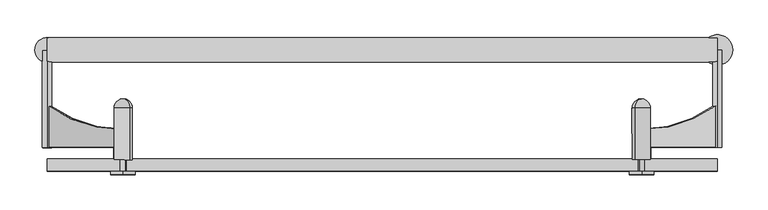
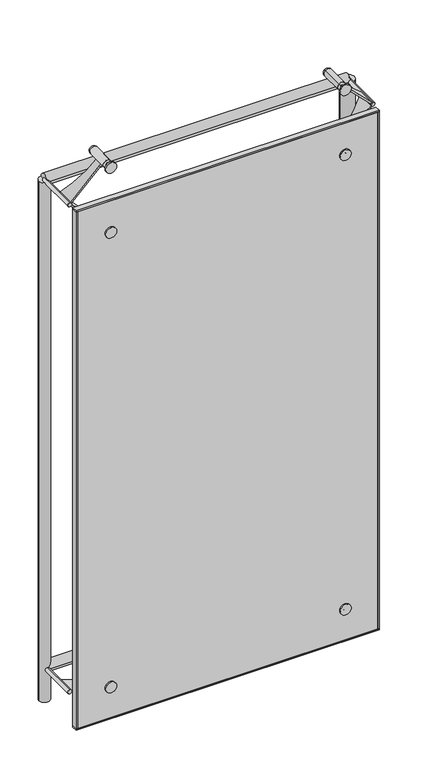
"""IFC4 building model written with IfcOpenShell, lengths in millimetres: plate geometry, FLATNING_TRYOUT : FLATNING_TRYOUT."""

from ifc_helpers import new_model, si_unit, point, frame, frame_2d, origin, origin_with_axes, place, context, project, spatial, polyline, circle_curve, ellipse_curve, trimmed, segment, composite_curve, outline, extrude, source, transform, mapped, element, save
from ifc_brep_helpers import plane_surface, cylinder_surface, revolved_surface, advanced_brep


def plate_2afd96b2(model_context):
    return source(origin(), model_context, "Body", "SolidModel", [
        extrude(outline(composite_curve([segment(polyline([(29.9999999, 0.0), (0.0, 0.0)]), True, "CONTINUOUS"), segment(trimmed(circle_curve(frame_2d((-375.1980994, 8.2292431)), 375.2883348), [point((0.0, 0.0))], [point((-40.0000001, 177.0))], True, "CARTESIAN"), True, "CONTINUOUS"), segment(polyline([(-40.0000001, 177.0), (30.0, 177.0), (29.9999999, 0.0)]), True, "CONTINUOUS")], self_intersect=False)), frame((425.2156771, 69.2674093, 2123.3901333), z_axis=(0.7070974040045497, 0.003641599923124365, 0.7071067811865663), x_axis=(0.005150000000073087, -0.9999867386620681, 0.0)), (0.0, 0.0, 1.0), 5.0),
        advanced_brep(
        [(427.3439206, -0.7225584, 2125.1579003), (423.8084336, -0.7407664, 2128.6934342), (430.8794076, -0.7043504, 2121.6223664), (416.6344596, 19.2225524, 2135.764502), (416.1967096, 104.2214252, 2135.764502), (437.4096317, 104.3306732, 2114.5512986), (437.8473817, 19.3318004, 2114.5512986), (423.7054336, 19.2589684, 2128.6934342), (430.7764076, 19.2953844, 2121.6223664), (426.7259206, 119.2758503, 2125.1579003)],
        [
            (0, 1),
            (1, 2, circle_curve(frame((427.3439206, -0.7225584, 2125.1579003), z_axis=(0.005150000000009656, -0.9999867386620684, 0.0), x_axis=(0.7070974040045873, 0.0036415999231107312, -0.7071067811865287)), 5.0)),
            (2, 0),
            (2, 1, circle_curve(frame((427.3439206, -0.7225584, 2125.1579003), z_axis=(0.005150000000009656, -0.9999867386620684, 0.0), x_axis=(0.7070974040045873, 0.0036415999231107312, -0.7071067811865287)), 5.0)),
            (3, 4),
            (4, 5, circle_curve(frame((426.8031706, 104.2760492, 2125.1579003), z_axis=(0.005150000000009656, -0.9999867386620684, 0.0), x_axis=(0.7070974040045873, 0.0036415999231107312, -0.7071067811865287)), 15.0)),
            (5, 6),
            (6, 3, circle_curve(frame((427.2409206, 19.2771764, 2125.1579003), z_axis=(-0.005150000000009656, 0.9999867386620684, 0.0), x_axis=(0.7070974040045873, 0.0036415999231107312, -0.7071067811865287)), 15.0)),
            (5, 4, circle_curve(frame((426.8031706, 104.2760492, 2125.1579003), z_axis=(0.005150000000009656, -0.9999867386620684, 0.0), x_axis=(0.7070974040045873, 0.0036415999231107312, -0.7071067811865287)), 15.0)),
            (3, 6, circle_curve(frame((427.2409206, 19.2771764, 2125.1579003), z_axis=(-0.005150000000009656, 0.9999867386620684, 0.0), x_axis=(0.7070974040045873, 0.0036415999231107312, -0.7071067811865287)), 15.0)),
            (7, 3),
            (6, 8),
            (8, 7, circle_curve(frame((427.2409206, 19.2771764, 2125.1579003), z_axis=(-0.005150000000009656, 0.9999867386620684, 0.0), x_axis=(0.7070974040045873, 0.0036415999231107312, -0.7071067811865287)), 5.0)),
            (7, 8, circle_curve(frame((427.2409206, 19.2771764, 2125.1579003), z_axis=(-0.005150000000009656, 0.9999867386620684, 0.0), x_axis=(0.7070974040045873, 0.0036415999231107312, -0.7071067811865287)), 5.0)),
            (1, 7),
            (8, 2),
            (4, 9, circle_curve(frame((426.8031706, 104.2760492, 2125.1579003), z_axis=(-0.7070974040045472, -0.0036415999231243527, -0.7071067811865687), x_axis=(-0.7070974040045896, -0.003641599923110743, 0.7071067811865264)), 15.0)),
            (9, 5, circle_curve(frame((426.8031706, 104.2760492, 2125.1579003), z_axis=(-0.7070974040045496, -0.0036415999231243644, -0.7071067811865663), x_axis=(0.7070974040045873, 0.0036415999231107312, -0.7071067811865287)), 15.0)),
        ],
        [
            plane_surface(frame((427.3439206, -0.7225584, 2125.1579003), z_axis=(0.005150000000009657, -0.9999867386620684, 0.0), x_axis=(0.7070974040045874, 0.0036415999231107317, -0.7071067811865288))),
            cylinder_surface(frame((430.0734206, -530.7155299, 2125.1579003), z_axis=(0.005150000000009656, -0.9999867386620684, 0.0), x_axis=(0.7070974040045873, 0.0036415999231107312, -0.7071067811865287)), 15.0),
            plane_surface(frame((427.2409206, 19.2771764, 2125.1579003), z_axis=(0.005150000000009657, -0.9999867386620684, 0.0), x_axis=(0.7070974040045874, 0.0036415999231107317, -0.7071067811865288))),
            cylinder_surface(frame((430.0734206, -530.7155299, 2125.1579003), z_axis=(0.005150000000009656, -0.9999867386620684, 0.0), x_axis=(0.7070974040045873, 0.0036415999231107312, -0.7071067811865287)), 5.0),
            revolved_surface(trimmed(ellipse_curve(frame((426.8031706, 104.2760492, 2125.1579003), z_axis=(-0.7070974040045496, -0.0036415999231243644, -0.7071067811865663), x_axis=(0.7070974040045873, 0.0036415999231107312, -0.7071067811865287)), 15.0, 15.0), [point((426.7259206, 119.2758503, 2125.1579003))], [point((437.4096317, 104.3306732, 2114.5512986))], True, "CARTESIAN"), (430.0734206, -530.7155299, 2125.1579003), (0.005150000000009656, -0.9999867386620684, 0.0)),
        ],
        [
            (0, [[1, 2, 3]]),
            (0, [[-3, 4, -1]]),
            (1, [[5, 6, 7, 8]]),
            (1, [[-7, 9, -5, 10]]),
            (2, [[11, -8, 12, 13]]),
            (2, [[-12, -10, -11, 14]]),
            (3, [[15, -13, 16, -2]]),
            (3, [[-16, -14, -15, -4]]),
            (4, [[17, 18, -6]]),
            (4, [[-18, -17, -9]]),
        ],
    ),
        extrude(outline(composite_curve([segment(polyline([(-30.0, 0.0), (-30.0, 177.0), (40.0, 177.0)]), True, "CONTINUOUS"), segment(trimmed(circle_curve(frame_2d((375.1980994, 8.2292431)), 375.2883348), [point((40.0, 177.0))], [point((0.0, 0.0))], True, "CARTESIAN"), True, "CONTINUOUS"), segment(polyline([(0.0, 0.0), (-30.0, 0.0)]), True, "CONTINUOUS")], self_intersect=False)), frame((-425.2127575, 68.8166307, 2123.3901333), z_axis=(-0.7070974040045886, 0.003641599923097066, 0.7071067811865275), x_axis=(0.005150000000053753, 0.9999867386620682, 0.0)), (0.0, 0.0, 1.0), 5.0),
        advanced_brep(
        [(-427.341001, -1.173337, 2125.1579003), (-423.805514, -1.191545, 2128.6934342), (-430.876488, -1.155129, 2121.6223664), (-416.63154, 18.7717738, 2135.764502), (-416.19379, 103.7706466, 2135.764502), (-437.4067121, 103.8798945, 2114.5512986), (-437.8444621, 18.8810218, 2114.5512986), (-423.702514, 18.8081898, 2128.6934342), (-430.773488, 18.8446058, 2121.6223664), (-426.723001, 118.8250716, 2125.1579003)],
        [
            (0, 1),
            (1, 2, circle_curve(frame((-427.341001, -1.173337, 2125.1579003), z_axis=(-0.005149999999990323, -0.9999867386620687, 0.0), x_axis=(-0.7070974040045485, 0.0036415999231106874, -0.7071067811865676)), 5.0)),
            (2, 0),
            (2, 1, circle_curve(frame((-427.341001, -1.173337, 2125.1579003), z_axis=(-0.005149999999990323, -0.9999867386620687, 0.0), x_axis=(-0.7070974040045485, 0.0036415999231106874, -0.7071067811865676)), 5.0)),
            (3, 4),
            (4, 5, circle_curve(frame((-426.800251, 103.8252705, 2125.1579003), z_axis=(-0.005149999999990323, -0.9999867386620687, 0.0), x_axis=(-0.7070974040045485, 0.0036415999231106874, -0.7071067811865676)), 15.0)),
            (5, 6),
            (6, 3, circle_curve(frame((-427.238001, 18.8263978, 2125.1579003), z_axis=(0.005149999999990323, 0.9999867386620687, 0.0), x_axis=(-0.7070974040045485, 0.0036415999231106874, -0.7071067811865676)), 15.0)),
            (5, 4, circle_curve(frame((-426.800251, 103.8252705, 2125.1579003), z_axis=(-0.005149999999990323, -0.9999867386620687, 0.0), x_axis=(-0.7070974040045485, 0.0036415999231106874, -0.7071067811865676)), 15.0)),
            (3, 6, circle_curve(frame((-427.238001, 18.8263978, 2125.1579003), z_axis=(0.005149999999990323, 0.9999867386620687, 0.0), x_axis=(-0.7070974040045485, 0.0036415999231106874, -0.7071067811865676)), 15.0)),
            (7, 3),
            (6, 8),
            (8, 7, circle_curve(frame((-427.238001, 18.8263978, 2125.1579003), z_axis=(0.005149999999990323, 0.9999867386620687, 0.0), x_axis=(-0.7070974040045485, 0.0036415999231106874, -0.7071067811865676)), 5.0)),
            (7, 8, circle_curve(frame((-427.238001, 18.8263978, 2125.1579003), z_axis=(0.005149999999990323, 0.9999867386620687, 0.0), x_axis=(-0.7070974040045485, 0.0036415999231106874, -0.7071067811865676)), 5.0)),
            (1, 7),
            (8, 2),
            (4, 9, circle_curve(frame((-426.800251, 103.8252705, 2125.1579003), z_axis=(-0.707097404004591, 0.0036415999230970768, 0.7071067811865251), x_axis=(0.7070974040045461, -0.0036415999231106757, 0.7071067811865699)), 15.0)),
            (9, 5, circle_curve(frame((-426.800251, 103.8252705, 2125.1579003), z_axis=(-0.7070974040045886, 0.003641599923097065, 0.7071067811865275), x_axis=(-0.7070974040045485, 0.0036415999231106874, -0.7071067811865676)), 15.0)),
        ],
        [
            plane_surface(frame((-427.341001, -1.173337, 2125.1579003), z_axis=(-0.005149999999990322, -0.9999867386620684, 0.0), x_axis=(-0.7070974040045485, 0.0036415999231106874, -0.7071067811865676))),
            cylinder_surface(frame((-430.070501, -531.1663085, 2125.1579003), z_axis=(-0.005149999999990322, -0.9999867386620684, 0.0), x_axis=(-0.7070974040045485, 0.0036415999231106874, -0.7071067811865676)), 15.0),
            plane_surface(frame((-427.238001, 18.8263978, 2125.1579003), z_axis=(-0.005149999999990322, -0.9999867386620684, 0.0), x_axis=(-0.7070974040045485, 0.0036415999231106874, -0.7071067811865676))),
            cylinder_surface(frame((-430.070501, -531.1663085, 2125.1579003), z_axis=(-0.005149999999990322, -0.9999867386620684, 0.0), x_axis=(-0.7070974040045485, 0.0036415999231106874, -0.7071067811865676)), 5.0),
            revolved_surface(trimmed(ellipse_curve(frame((-426.800251, 103.8252705, 2125.1579003), z_axis=(-0.7070974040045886, 0.003641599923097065, 0.7071067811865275), x_axis=(-0.7070974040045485, 0.0036415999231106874, -0.7071067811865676)), 15.0, 15.0), [point((-426.723001, 118.8250716, 2125.1579003))], [point((-437.4067121, 103.8798945, 2114.5512986))], True, "CARTESIAN"), (-430.070501, -531.1663085, 2125.1579003), (-0.005149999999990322, -0.9999867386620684, 0.0)),
        ],
        [
            (0, [[1, 2, 3]]),
            (0, [[-3, 4, -1]]),
            (1, [[5, 6, 7, 8]]),
            (1, [[-7, 9, -5, 10]]),
            (2, [[11, -8, 12, 13]]),
            (2, [[-12, -10, -11, 14]]),
            (3, [[15, -13, 16, -2]]),
            (3, [[-16, -14, -15, -4]]),
            (4, [[17, 18, -6]]),
            (4, [[-18, -17, -9]]),
        ],
    ),
        extrude(outline(composite_curve([segment(polyline([(30.0, 0.0), (0.0, 0.0)]), True, "CONTINUOUS"), segment(trimmed(circle_curve(frame_2d((-375.1980994, 8.2292431)), 375.2883348), [point((0.0, 0.0))], [point((-40.0, 176.9999999))], True, "CARTESIAN"), True, "CONTINUOUS"), segment(polyline([(-40.0, 176.9999999), (30.0, 176.9999999), (30.0, 0.0)]), True, "CONTINUOUS")], self_intersect=False)), frame((428.751003, 69.2856165, 1873.0743328), z_axis=(-0.7070974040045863, -0.0036415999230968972, 0.7071067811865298), x_axis=(0.005150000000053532, -0.9999867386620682, 0.0)), (0.0, 0.0, 1.0), 5.0),
        advanced_brep(
        [(427.3437595, -0.7225592, 1874.8420997), (423.8082725, -0.7407672, 1871.3065658), (430.8792465, -0.7043512, 1878.3776336), (416.6342984, 19.2225516, 1864.235498), (416.1965484, 104.2214243, 1864.235498), (437.4094706, 104.3306723, 1885.4487014), (437.8472206, 19.3317996, 1885.4487014), (423.7052725, 19.2589676, 1871.3065658), (430.7762465, 19.2953836, 1878.3776336), (426.7257595, 119.2758494, 1874.8420997)],
        [
            (0, 1),
            (1, 2, circle_curve(frame((427.3437595, -0.7225592, 1874.8420997), z_axis=(0.005149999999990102, -0.9999867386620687, 0.0), x_axis=(0.7070974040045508, 0.0036415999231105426, 0.7071067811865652)), 5.0)),
            (2, 0),
            (2, 1, circle_curve(frame((427.3437595, -0.7225592, 1874.8420997), z_axis=(0.005149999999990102, -0.9999867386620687, 0.0), x_axis=(0.7070974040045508, 0.0036415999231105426, 0.7071067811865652)), 5.0)),
            (3, 4),
            (4, 5, circle_curve(frame((426.8030095, 104.2760483, 1874.8420997), z_axis=(0.005149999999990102, -0.9999867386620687, 0.0), x_axis=(0.7070974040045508, 0.0036415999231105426, 0.7071067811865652)), 15.0)),
            (5, 6),
            (6, 3, circle_curve(frame((427.2407595, 19.2771756, 1874.8420997), z_axis=(-0.005149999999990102, 0.9999867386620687, 0.0), x_axis=(0.7070974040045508, 0.0036415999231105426, 0.7071067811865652)), 15.0)),
            (5, 4, circle_curve(frame((426.8030095, 104.2760483, 1874.8420997), z_axis=(0.005149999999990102, -0.9999867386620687, 0.0), x_axis=(0.7070974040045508, 0.0036415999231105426, 0.7071067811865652)), 15.0)),
            (3, 6, circle_curve(frame((427.2407595, 19.2771756, 1874.8420997), z_axis=(-0.005149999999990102, 0.9999867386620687, 0.0), x_axis=(0.7070974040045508, 0.0036415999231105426, 0.7071067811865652)), 15.0)),
            (7, 3),
            (6, 8),
            (8, 7, circle_curve(frame((427.2407595, 19.2771756, 1874.8420997), z_axis=(-0.005149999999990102, 0.9999867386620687, 0.0), x_axis=(0.7070974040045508, 0.0036415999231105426, 0.7071067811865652)), 5.0)),
            (7, 8, circle_curve(frame((427.2407595, 19.2771756, 1874.8420997), z_axis=(-0.005149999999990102, 0.9999867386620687, 0.0), x_axis=(0.7070974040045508, 0.0036415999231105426, 0.7071067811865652)), 5.0)),
            (1, 7),
            (8, 2),
            (4, 9, circle_curve(frame((426.8030095, 104.2760483, 1874.8420997), z_axis=(0.7070974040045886, 0.003641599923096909, -0.7071067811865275), x_axis=(-0.7070974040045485, -0.003641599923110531, -0.7071067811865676)), 15.0)),
            (9, 5, circle_curve(frame((426.8030095, 104.2760483, 1874.8420997), z_axis=(0.7070974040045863, 0.0036415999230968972, -0.7071067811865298), x_axis=(0.7070974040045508, 0.0036415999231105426, 0.7071067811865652)), 15.0)),
        ],
        [
            plane_surface(frame((427.3437595, -0.7225592, 1874.8420997), z_axis=(0.005149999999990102, -0.9999867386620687, 0.0), x_axis=(0.7070974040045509, 0.003641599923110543, 0.7071067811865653))),
            cylinder_surface(frame((430.0732595, -530.7155307, 1874.8420997), z_axis=(0.005149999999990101, -0.9999867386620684, 0.0), x_axis=(0.7070974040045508, 0.0036415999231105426, 0.7071067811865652)), 15.0),
            plane_surface(frame((427.2407595, 19.2771756, 1874.8420997), z_axis=(0.005149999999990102, -0.9999867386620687, 0.0), x_axis=(0.7070974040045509, 0.003641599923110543, 0.7071067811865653))),
            cylinder_surface(frame((430.0732595, -530.7155307, 1874.8420997), z_axis=(0.005149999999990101, -0.9999867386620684, 0.0), x_axis=(0.7070974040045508, 0.0036415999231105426, 0.7071067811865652)), 5.0),
            revolved_surface(trimmed(ellipse_curve(frame((426.8030095, 104.2760483, 1874.8420997), z_axis=(0.7070974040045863, 0.0036415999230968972, -0.7071067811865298), x_axis=(0.7070974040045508, 0.0036415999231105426, 0.7071067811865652)), 15.0, 15.0), [point((426.7257595, 119.2758494, 1874.8420997))], [point((437.4094706, 104.3306723, 1885.4487014))], True, "CARTESIAN"), (430.0732595, -530.7155307, 1874.8420997), (0.005149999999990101, -0.9999867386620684, 0.0)),
        ],
        [
            (0, [[1, 2, 3]]),
            (0, [[-3, 4, -1]]),
            (1, [[5, 6, 7, 8]]),
            (1, [[-7, 9, -5, 10]]),
            (2, [[11, -8, 12, 13]]),
            (2, [[-12, -10, -11, 14]]),
            (3, [[15, -13, 16, -2]]),
            (3, [[-16, -14, -15, -4]]),
            (4, [[17, 18, -6]]),
            (4, [[-18, -17, -9]]),
        ],
    ),
        extrude(outline(composite_curve([segment(polyline([(30.0, 0.0), (30.0, -176.9999999), (-40.0, -176.9999999)]), True, "CONTINUOUS"), segment(trimmed(circle_curve(frame_2d((-375.1980994, -8.2292431)), 375.2883348), [point((-40.0, -176.9999999))], [point((0.0, 0.0))], True, "CARTESIAN"), True, "CONTINUOUS"), segment(polyline([(0.0, 0.0), (30.0, 0.0)]), True, "CONTINUOUS")], self_intersect=False)), frame((-428.751003, 69.2856165, 1873.0743328), z_axis=(0.7070974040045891, -0.003641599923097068, 0.707106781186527), x_axis=(-0.005150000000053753, -0.9999867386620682, 0.0)), (0.0, 0.0, 1.0), 5.0),
        advanced_brep(
        [(-427.3437595, -0.7225592, 1874.8420997), (-430.8792465, -0.7043512, 1878.3776336), (-423.8082725, -0.7407672, 1871.3065658), (-416.6342984, 19.2225516, 1864.235498), (-437.8472206, 19.3317996, 1885.4487014), (-437.4094706, 104.3306723, 1885.4487014), (-416.1965484, 104.2214243, 1864.235498), (-423.7052725, 19.2589676, 1871.3065658), (-430.7762465, 19.2953836, 1878.3776336), (-426.7257595, 119.2758494, 1874.8420997)],
        [
            (0, 1),
            (1, 2, circle_curve(frame((-427.3437595, -0.7225592, 1874.8420997), z_axis=(-0.005149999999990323, -0.9999867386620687, 0.0), x_axis=(-0.707097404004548, 0.003641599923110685, 0.707106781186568)), 5.0)),
            (2, 0),
            (2, 1, circle_curve(frame((-427.3437595, -0.7225592, 1874.8420997), z_axis=(-0.005149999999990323, -0.9999867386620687, 0.0), x_axis=(-0.707097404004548, 0.003641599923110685, 0.707106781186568)), 5.0)),
            (3, 4, circle_curve(frame((-427.2407595, 19.2771756, 1874.8420997), z_axis=(0.005149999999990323, 0.9999867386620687, 0.0), x_axis=(-0.707097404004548, 0.003641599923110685, 0.707106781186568)), 15.0)),
            (4, 5),
            (5, 6, circle_curve(frame((-426.8030095, 104.2760483, 1874.8420997), z_axis=(-0.005149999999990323, -0.9999867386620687, 0.0), x_axis=(-0.707097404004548, 0.003641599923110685, 0.707106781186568)), 15.0)),
            (6, 3),
            (4, 3, circle_curve(frame((-427.2407595, 19.2771756, 1874.8420997), z_axis=(0.005149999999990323, 0.9999867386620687, 0.0), x_axis=(-0.707097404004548, 0.003641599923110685, 0.707106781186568)), 15.0)),
            (6, 5, circle_curve(frame((-426.8030095, 104.2760483, 1874.8420997), z_axis=(-0.005149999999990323, -0.9999867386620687, 0.0), x_axis=(-0.707097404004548, 0.003641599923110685, 0.707106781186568)), 15.0)),
            (7, 8, circle_curve(frame((-427.2407595, 19.2771756, 1874.8420997), z_axis=(0.005149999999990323, 0.9999867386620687, 0.0), x_axis=(-0.707097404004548, 0.003641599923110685, 0.707106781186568)), 5.0)),
            (8, 4),
            (3, 7),
            (8, 7, circle_curve(frame((-427.2407595, 19.2771756, 1874.8420997), z_axis=(0.005149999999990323, 0.9999867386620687, 0.0), x_axis=(-0.707097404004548, 0.003641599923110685, 0.707106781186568)), 5.0)),
            (1, 8),
            (7, 2),
            (5, 9, circle_curve(frame((-426.8030095, 104.2760483, 1874.8420997), z_axis=(-0.7070974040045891, 0.0036415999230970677, -0.707106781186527), x_axis=(-0.707097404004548, 0.003641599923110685, 0.707106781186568)), 15.0)),
            (9, 6, circle_curve(frame((-426.8030095, 104.2760483, 1874.8420997), z_axis=(-0.7070974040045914, 0.0036415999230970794, -0.7071067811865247), x_axis=(0.7070974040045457, -0.003641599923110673, -0.7071067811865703)), 15.0)),
        ],
        [
            plane_surface(frame((-427.3437595, -0.7225592, 1874.8420997), z_axis=(-0.005149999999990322, -0.9999867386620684, 0.0), x_axis=(-0.707097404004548, 0.003641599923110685, 0.707106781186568))),
            cylinder_surface(frame((-430.0732595, -530.7155307, 1874.8420997), z_axis=(-0.005149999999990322, -0.9999867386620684, 0.0), x_axis=(-0.707097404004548, 0.003641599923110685, 0.707106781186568)), 15.0),
            plane_surface(frame((-427.2407595, 19.2771756, 1874.8420997), z_axis=(-0.005149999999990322, -0.9999867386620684, 0.0), x_axis=(-0.707097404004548, 0.003641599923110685, 0.707106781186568))),
            cylinder_surface(frame((-430.0732595, -530.7155307, 1874.8420997), z_axis=(-0.005149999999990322, -0.9999867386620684, 0.0), x_axis=(-0.707097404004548, 0.003641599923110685, 0.707106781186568)), 5.0),
            revolved_surface(trimmed(ellipse_curve(frame((-426.8030095, 104.2760483, 1874.8420997), z_axis=(0.7070974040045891, -0.0036415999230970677, 0.707106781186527), x_axis=(-0.707097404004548, 0.003641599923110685, 0.707106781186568)), 15.0, 15.0), [point((-426.7257595, 119.2758494, 1874.8420997))], [point((-437.4094706, 104.3306723, 1885.4487014))], True, "CARTESIAN"), (-430.0732595, -530.7155307, 1874.8420997), (-0.005149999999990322, -0.9999867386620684, 0.0)),
        ],
        [
            (0, [[1, 2, 3]]),
            (0, [[-3, 4, -1]]),
            (1, [[5, 6, 7, 8]]),
            (1, [[9, -8, 10, -6]]),
            (2, [[11, 12, -5, 13]]),
            (2, [[14, -13, -9, -12]]),
            (3, [[-2, 15, -11, 16]]),
            (3, [[-4, -16, -14, -15]]),
            (4, [[-7, 17, 18]]),
            (4, [[-10, -18, -17]]),
        ],
    ),
        extrude(outline(composite_curve([segment(polyline([(427.2956577, 38.8269599), (427.1411577, 68.8265621)]), True, "CONTINUOUS"), segment(trimmed(circle_curve(frame_2d((421.7588536, 297.257539)), 228.4943772), [point((427.1411577, 68.8265621))], [point((551.9335001, 109.4697816))], True, "CARTESIAN"), True, "CONTINUOUS"), segment(polyline([(551.9335001, 109.4697816), (552.2940001, 39.4707099), (427.2956577, 38.8269599)]), True, "CONTINUOUS")], self_intersect=False)), frame((0.0, 0.0, 122.5), z_axis=(0.0, 0.0, 1.0), x_axis=(1.0, 0.0, 0.0)), (0.0, 0.0, 1.0), 5.0),
        advanced_brep(
        [(427.5016577, -1.1725096, 125.0), (422.501724, -1.1982596, 125.0), (432.5015914, -1.1467596, 125.0), (412.3988566, 18.7499752, 125.0), (411.9611066, 103.7488479, 125.0), (441.9607088, 103.9033479, 125.0), (442.3984588, 18.9044752, 125.0), (422.398724, 18.8014752, 125.0), (432.3985914, 18.8529752, 125.0), (426.8836577, 118.825899, 125.0)],
        [
            (0, 1),
            (1, 2, circle_curve(frame((427.5016577, -1.1725096, 125.0), z_axis=(0.005149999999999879, -0.9999867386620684, 0.0), x_axis=(0.9999867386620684, 0.005149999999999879, 0.0)), 5.0)),
            (2, 0),
            (2, 1, circle_curve(frame((427.5016577, -1.1725096, 125.0), z_axis=(0.005149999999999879, -0.9999867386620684, 0.0), x_axis=(0.9999867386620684, 0.005149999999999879, 0.0)), 5.0)),
            (3, 4),
            (4, 5, circle_curve(frame((426.9609077, 103.8260979, 125.0), z_axis=(0.005149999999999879, -0.9999867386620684, 0.0), x_axis=(0.9999867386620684, 0.005149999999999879, 0.0)), 15.0)),
            (5, 6),
            (6, 3, circle_curve(frame((427.3986577, 18.8272252, 125.0), z_axis=(-0.005149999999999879, 0.9999867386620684, 0.0), x_axis=(0.9999867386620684, 0.005149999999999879, 0.0)), 15.0)),
            (5, 4, circle_curve(frame((426.9609077, 103.8260979, 125.0), z_axis=(0.005149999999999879, -0.9999867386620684, 0.0), x_axis=(0.9999867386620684, 0.005149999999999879, 0.0)), 15.0)),
            (3, 6, circle_curve(frame((427.3986577, 18.8272252, 125.0), z_axis=(-0.005149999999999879, 0.9999867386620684, 0.0), x_axis=(0.9999867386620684, 0.005149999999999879, 0.0)), 15.0)),
            (7, 3),
            (6, 8),
            (8, 7, circle_curve(frame((427.3986577, 18.8272252, 125.0), z_axis=(-0.005149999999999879, 0.9999867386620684, 0.0), x_axis=(0.9999867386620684, 0.005149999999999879, 0.0)), 5.0)),
            (7, 8, circle_curve(frame((427.3986577, 18.8272252, 125.0), z_axis=(-0.005149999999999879, 0.9999867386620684, 0.0), x_axis=(0.9999867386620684, 0.005149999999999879, 0.0)), 5.0)),
            (1, 7),
            (8, 2),
            (4, 9, circle_curve(frame((426.9609077, 103.8260979, 125.0), z_axis=(0.0, 0.0, -1.0), x_axis=(-0.9999867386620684, -0.005149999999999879, 0.0)), 15.0)),
            (9, 5, circle_curve(frame((426.9609077, 103.8260979, 125.0), z_axis=(0.0, 0.0, -1.0), x_axis=(0.9999867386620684, 0.005149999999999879, 0.0)), 15.0)),
        ],
        [
            plane_surface(frame((427.5016577, -1.1725096, 125.0), z_axis=(0.005149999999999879, -0.9999867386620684, 0.0), x_axis=(0.9999867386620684, 0.005149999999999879, 0.0))),
            cylinder_surface(frame((428.8149077, -256.169128, 125.0), z_axis=(0.005149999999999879, -0.9999867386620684, 0.0), x_axis=(0.9999867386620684, 0.005149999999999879, 0.0)), 15.0),
            plane_surface(frame((427.3986577, 18.8272252, 125.0), z_axis=(0.005149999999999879, -0.9999867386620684, 0.0), x_axis=(0.9999867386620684, 0.005149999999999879, 0.0))),
            cylinder_surface(frame((428.8149077, -256.169128, 125.0), z_axis=(0.005149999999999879, -0.9999867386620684, 0.0), x_axis=(0.9999867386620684, 0.005149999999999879, 0.0)), 5.0),
            revolved_surface(trimmed(ellipse_curve(frame((426.9609077, 103.8260979, 125.0), z_axis=(0.0, 0.0, -1.0), x_axis=(0.9999867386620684, 0.005149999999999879, 0.0)), 15.0, 15.0), [point((426.8836577, 118.825899, 125.0))], [point((441.9607088, 103.9033479, 125.0))], True, "CARTESIAN"), (428.8149077, -256.169128, 125.0), (0.005149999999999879, -0.9999867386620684, 0.0)),
        ],
        [
            (0, [[1, 2, 3]]),
            (0, [[-3, 4, -1]]),
            (1, [[5, 6, 7, 8]]),
            (1, [[-7, 9, -5, 10]]),
            (2, [[11, -8, 12, 13]]),
            (2, [[-12, -10, -11, 14]]),
            (3, [[15, -13, 16, -2]]),
            (3, [[-16, -14, -15, -4]]),
            (4, [[17, 18, -6]]),
            (4, [[-18, -17, -9]]),
        ],
    ),
        extrude(outline(composite_curve([segment(polyline([(-427.2956577, 38.8269599), (-552.2940001, 39.4707099), (-551.9335001, 109.4697816)]), True, "CONTINUOUS"), segment(trimmed(circle_curve(frame_2d((-421.7588536, 297.257539)), 228.4943772), [point((-551.9335001, 109.4697816))], [point((-427.1411577, 68.8265621))], True, "CARTESIAN"), True, "CONTINUOUS"), segment(polyline([(-427.1411577, 68.8265621), (-427.2956577, 38.8269599)]), True, "CONTINUOUS")], self_intersect=False)), frame((0.0, 0.0, 122.5), z_axis=(0.0, 0.0, 1.0), x_axis=(1.0, 0.0, 0.0)), (0.0, 0.0, 1.0), 5.0),
        advanced_brep(
        [(-427.5016577, -1.1725096, 125.0), (-422.501724, -1.1982596, 125.0), (-432.5015914, -1.1467596, 125.0), (-412.3988566, 18.7499752, 125.0), (-411.9611066, 103.7488479, 125.0), (-441.9607088, 103.9033479, 125.0), (-442.3984588, 18.9044752, 125.0), (-422.398724, 18.8014752, 125.0), (-432.3985914, 18.8529752, 125.0), (-426.8836577, 118.825899, 125.0)],
        [
            (0, 1),
            (1, 2, circle_curve(frame((-427.5016577, -1.1725096, 125.0), z_axis=(-0.0051500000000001, -0.9999867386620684, 0.0), x_axis=(-0.9999867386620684, 0.0051500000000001, 0.0)), 5.0)),
            (2, 0),
            (2, 1, circle_curve(frame((-427.5016577, -1.1725096, 125.0), z_axis=(-0.0051500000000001, -0.9999867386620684, 0.0), x_axis=(-0.9999867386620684, 0.0051500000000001, 0.0)), 5.0)),
            (3, 4),
            (4, 5, circle_curve(frame((-426.9609077, 103.8260979, 125.0), z_axis=(-0.0051500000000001, -0.9999867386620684, 0.0), x_axis=(-0.9999867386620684, 0.0051500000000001, 0.0)), 15.0)),
            (5, 6),
            (6, 3, circle_curve(frame((-427.3986577, 18.8272252, 125.0), z_axis=(0.0051500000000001, 0.9999867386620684, 0.0), x_axis=(-0.9999867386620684, 0.0051500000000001, 0.0)), 15.0)),
            (5, 4, circle_curve(frame((-426.9609077, 103.8260979, 125.0), z_axis=(-0.0051500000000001, -0.9999867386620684, 0.0), x_axis=(-0.9999867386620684, 0.0051500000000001, 0.0)), 15.0)),
            (3, 6, circle_curve(frame((-427.3986577, 18.8272252, 125.0), z_axis=(0.0051500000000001, 0.9999867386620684, 0.0), x_axis=(-0.9999867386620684, 0.0051500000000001, 0.0)), 15.0)),
            (7, 3),
            (6, 8),
            (8, 7, circle_curve(frame((-427.3986577, 18.8272252, 125.0), z_axis=(0.0051500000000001, 0.9999867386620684, 0.0), x_axis=(-0.9999867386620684, 0.0051500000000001, 0.0)), 5.0)),
            (7, 8, circle_curve(frame((-427.3986577, 18.8272252, 125.0), z_axis=(0.0051500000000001, 0.9999867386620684, 0.0), x_axis=(-0.9999867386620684, 0.0051500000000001, 0.0)), 5.0)),
            (1, 7),
            (8, 2),
            (4, 9, circle_curve(frame((-426.9609077, 103.8260979, 125.0), z_axis=(0.0, 0.0, 1.0), x_axis=(0.9999867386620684, -0.0051500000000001, 0.0)), 15.0)),
            (9, 5, circle_curve(frame((-426.9609077, 103.8260979, 125.0), z_axis=(0.0, 0.0, 1.0), x_axis=(-0.9999867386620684, 0.0051500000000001, 0.0)), 15.0)),
        ],
        [
            plane_surface(frame((-427.5016577, -1.1725096, 125.0), z_axis=(-0.0051500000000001, -0.9999867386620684, 0.0), x_axis=(-0.9999867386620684, 0.0051500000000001, 0.0))),
            cylinder_surface(frame((-428.8149077, -256.169128, 125.0), z_axis=(-0.0051500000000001, -0.9999867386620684, 0.0), x_axis=(-0.9999867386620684, 0.0051500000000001, 0.0)), 15.0),
            plane_surface(frame((-427.3986577, 18.8272252, 125.0), z_axis=(-0.0051500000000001, -0.9999867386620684, 0.0), x_axis=(-0.9999867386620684, 0.0051500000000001, 0.0))),
            cylinder_surface(frame((-428.8149077, -256.169128, 125.0), z_axis=(-0.0051500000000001, -0.9999867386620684, 0.0), x_axis=(-0.9999867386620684, 0.0051500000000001, 0.0)), 5.0),
            revolved_surface(trimmed(ellipse_curve(frame((-426.9609077, 103.8260979, 125.0), z_axis=(0.0, 0.0, 1.0), x_axis=(-0.9999867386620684, 0.0051500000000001, 0.0)), 15.0, 15.0), [point((-426.8836577, 118.825899, 125.0))], [point((-441.9607088, 103.9033479, 125.0))], True, "CARTESIAN"), (-428.8149077, -256.169128, 125.0), (-0.0051500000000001, -0.9999867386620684, 0.0)),
        ],
        [
            (0, [[1, 2, 3]]),
            (0, [[-3, 4, -1]]),
            (1, [[5, 6, 7, 8]]),
            (1, [[-7, 9, -5, 10]]),
            (2, [[11, -8, 12, 13]]),
            (2, [[-12, -10, -11, 14]]),
            (3, [[15, -13, 16, -2]]),
            (3, [[-16, -14, -15, -4]]),
            (4, [[17, 18, -6]]),
            (4, [[-18, -17, -9]]),
        ],
    ),
        extrude(outline(polyline([(552.5, 20.0), (552.5, 0.0), (-552.5, 0.0), (-552.5, 20.0), (552.5, 20.0)])), origin_with_axes(), (0.0, 0.0, 1.0), 5.0),
        extrude(outline(polyline([(552.5, 20.0), (552.5, 0.0), (-552.5, 0.0), (-552.5, 20.0), (552.5, 20.0)])), frame((0.0, 0.0, 1995.0), z_axis=(0.0, 0.0, 1.0), x_axis=(1.0, 0.0, 0.0)), (0.0, 0.0, 1.0), 5.0),
        extrude(outline(polyline([(547.5, -0.0781286), (547.5, 20.0), (552.5, 20.0), (552.5, -0.0781286), (547.5, -0.0781286)])), frame((0.0, 0.0, 5.0), z_axis=(0.0, 0.0, 1.0), x_axis=(1.0, 0.0, 0.0)), (0.0, 0.0, 1.0), 1990.0),
        extrude(outline(polyline([(-547.5, -0.5287596), (-552.5000001, -0.5287596), (-552.5000001, 20.0), (-547.5, 20.0), (-547.5, -0.5287596)])), frame((0.0, 0.0, 5.0), z_axis=(0.0, 0.0, 1.0), x_axis=(1.0, 0.0, 0.0)), (0.0, 0.0, 1.0), 1990.0),
        extrude(outline(polyline([(547.5, 20.0), (547.5, 0.0), (-547.5, 0.0), (-547.5, 20.0), (547.5, 20.0)])), frame((0.0, 0.0, 5.0), z_axis=(0.0, 0.0, 1.0), x_axis=(1.0, 0.0, 0.0)), (0.0, 0.0, 1.0), 1990.0),
        extrude(outline(composite_curve([segment(trimmed(circle_curve(frame_2d((200.0, 2000.0)), 20.0), [point((220.0, 2000.0))], [point((180.0, 2000.0))], False, "CARTESIAN"), True, "CONTINUOUS"), segment(trimmed(circle_curve(frame_2d((200.0, 2000.0)), 20.0), [point((180.0, 2000.0))], [point((220.0, 2000.0))], False, "CARTESIAN"), True, "CONTINUOUS")], self_intersect=False)), frame((-552.5, 0.0, 0.0), z_axis=(1.0, 0.0, 0.0), x_axis=(0.0, 1.0, 0.0)), (0.0, 0.0, 1.0), 1105.0),
        extrude(outline(composite_curve([segment(trimmed(circle_curve(frame_2d((200.0, 125.0)), 20.0), [point((220.0, 125.0))], [point((180.0, 125.0))], False, "CARTESIAN"), True, "CONTINUOUS"), segment(trimmed(circle_curve(frame_2d((200.0, 125.0)), 20.0), [point((180.0, 125.0))], [point((220.0, 125.0))], False, "CARTESIAN"), True, "CONTINUOUS")], self_intersect=False)), frame((-552.5, 0.0, 0.0), z_axis=(1.0, 0.0, 0.0), x_axis=(0.0, 1.0, 0.0)), (0.0, 0.0, 1.0), 1105.0),
        extrude(outline(composite_curve([segment(trimmed(circle_curve(frame_2d((2000.0, -552.5)), 7.5), [point((1992.5, -552.5))], [point((2007.5, -552.5))], False, "CARTESIAN"), True, "CONTINUOUS"), segment(trimmed(circle_curve(frame_2d((2000.0, -552.5)), 7.5), [point((2007.5, -552.5))], [point((1992.5, -552.5))], False, "CARTESIAN"), True, "CONTINUOUS")], self_intersect=False)), frame((0.0, 38.6528093, 0.0), z_axis=(0.0, 1.0, 0.0), x_axis=(0.0, 0.0, 1.0)), (0.0, 0.0, 1.0), 160.0),
        extrude(outline(composite_curve([segment(trimmed(circle_curve(frame_2d((2000.0, 552.5)), 7.5), [point((1992.5, 552.5))], [point((2007.5, 552.5))], False, "CARTESIAN"), True, "CONTINUOUS"), segment(trimmed(circle_curve(frame_2d((2000.0, 552.5)), 7.5), [point((2007.5, 552.5))], [point((1992.5, 552.5))], False, "CARTESIAN"), True, "CONTINUOUS")], self_intersect=False)), frame((0.0, 39.2242369, 0.0), z_axis=(0.0, 1.0, 0.0), x_axis=(0.0, 0.0, 1.0)), (0.0, 0.0, 1.0), 160.0),
        extrude(outline(composite_curve([segment(trimmed(circle_curve(frame_2d((0.0, 20.0)), 20.0), [point((0.0, 40.0))], [point((0.0, 0.0))], False, "CARTESIAN"), True, "CONTINUOUS"), segment(trimmed(circle_curve(frame_2d((0.0, 20.0)), 20.0), [point((0.0, 0.0))], [point((0.0, 40.0))], False, "CARTESIAN"), True, "CONTINUOUS")], self_intersect=False)), frame((-427.5, -5.7218209, 1895.0), z_axis=(0.005150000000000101, 0.9999867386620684, 0.0), x_axis=(0.9999867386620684, -0.005150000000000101, 0.0)), (0.0, 0.0, 1.0), 5.0),
        extrude(outline(composite_curve([segment(trimmed(circle_curve(frame_2d((0.0, -230.0)), 20.0), [point((0.0, -210.0))], [point((0.0, -250.0))], False, "CARTESIAN"), True, "CONTINUOUS"), segment(trimmed(circle_curve(frame_2d((0.0, -230.0)), 20.0), [point((0.0, -250.0))], [point((0.0, -210.0))], False, "CARTESIAN"), True, "CONTINUOUS")], self_intersect=False)), frame((-427.5, -5.7218209, 1895.0), z_axis=(0.005150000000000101, 0.9999867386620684, 0.0), x_axis=(0.9999867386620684, -0.005150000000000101, 0.0)), (0.0, 0.0, 1.0), 5.0),
        extrude(outline(composite_curve([segment(trimmed(circle_curve(frame_2d((0.0, 20.0)), 20.0), [point((0.0, 40.0))], [point((0.0, 0.0))], False, "CARTESIAN"), True, "CONTINUOUS"), segment(trimmed(circle_curve(frame_2d((0.0, 20.0)), 20.0), [point((0.0, 0.0))], [point((0.0, 40.0))], False, "CARTESIAN"), True, "CONTINUOUS")], self_intersect=False)), frame((427.5, -5.7218209, 1895.0), z_axis=(-0.005149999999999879, 0.9999867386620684, 0.0), x_axis=(0.9999867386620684, 0.005149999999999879, 0.0)), (0.0, 0.0, 1.0), 5.0),
        extrude(outline(composite_curve([segment(trimmed(circle_curve(frame_2d((0.0, -230.0)), 20.0), [point((0.0, -210.0))], [point((0.0, -250.0))], False, "CARTESIAN"), True, "CONTINUOUS"), segment(trimmed(circle_curve(frame_2d((0.0, -230.0)), 20.0), [point((0.0, -250.0))], [point((0.0, -210.0))], False, "CARTESIAN"), True, "CONTINUOUS")], self_intersect=False)), frame((427.5, -5.7218209, 1895.0), z_axis=(-0.005149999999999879, 0.9999867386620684, 0.0), x_axis=(0.9999867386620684, 0.005149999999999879, 0.0)), (0.0, 0.0, 1.0), 5.0),
        extrude(outline(composite_curve([segment(trimmed(circle_curve(frame_2d((125.0, 552.5)), 7.5), [point((117.5, 552.5))], [point((132.5, 552.5))], False, "CARTESIAN"), True, "CONTINUOUS"), segment(trimmed(circle_curve(frame_2d((125.0, 552.5)), 7.5), [point((132.5, 552.5))], [point((117.5, 552.5))], False, "CARTESIAN"), True, "CONTINUOUS")], self_intersect=False)), frame((0.0, 39.2589491, 0.0), z_axis=(0.0, 1.0, 0.0), x_axis=(0.0, 0.0, 1.0)), (0.0, 0.0, 1.0), 160.0),
        extrude(outline(composite_curve([segment(trimmed(circle_curve(frame_2d((0.0, 20.0)), 20.0), [point((0.0, 40.0))], [point((0.0, 0.0))], False, "CARTESIAN"), True, "CONTINUOUS"), segment(trimmed(circle_curve(frame_2d((0.0, 20.0)), 20.0), [point((0.0, 0.0))], [point((0.0, 40.0))], False, "CARTESIAN"), True, "CONTINUOUS")], self_intersect=False)), frame((427.52575, -5.7218209, 145.0), z_axis=(-0.005149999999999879, 0.9999867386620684, 0.0), x_axis=(0.9999867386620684, 0.005149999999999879, 0.0)), (0.0, 0.0, 1.0), 5.0),
        extrude(outline(composite_curve([segment(trimmed(circle_curve(frame_2d((125.0, -552.5)), 7.5), [point((117.5, -552.5))], [point((132.5, -552.5))], False, "CARTESIAN"), True, "CONTINUOUS"), segment(trimmed(circle_curve(frame_2d((125.0, -552.5)), 7.5), [point((132.5, -552.5))], [point((117.5, -552.5))], False, "CARTESIAN"), True, "CONTINUOUS")], self_intersect=False)), frame((0.0, 38.8047197, 0.0), z_axis=(0.0, 1.0, 0.0), x_axis=(0.0, 0.0, 1.0)), (0.0, 0.0, 1.0), 160.0),
        extrude(outline(composite_curve([segment(trimmed(circle_curve(frame_2d((0.0, 20.0)), 20.0), [point((0.0, 40.0))], [point((0.0, 0.0))], False, "CARTESIAN"), True, "CONTINUOUS"), segment(trimmed(circle_curve(frame_2d((0.0, 20.0)), 20.0), [point((0.0, 0.0))], [point((0.0, 40.0))], False, "CARTESIAN"), True, "CONTINUOUS")], self_intersect=False)), frame((-427.52575, -5.7218209, 145.0), z_axis=(0.005150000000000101, 0.9999867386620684, 0.0), x_axis=(0.9999867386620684, -0.005150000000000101, 0.0)), (0.0, 0.0, 1.0), 5.0),
        extrude(outline(composite_curve([segment(trimmed(circle_curve(frame_2d((552.5, 200.0)), 25.0), [point((527.5, 200.0))], [point((577.5, 200.0))], False, "CARTESIAN"), True, "CONTINUOUS"), segment(trimmed(circle_curve(frame_2d((552.5, 200.0)), 25.0), [point((577.5, 200.0))], [point((527.5, 200.0))], False, "CARTESIAN"), True, "CONTINUOUS")], self_intersect=False)), origin_with_axes(), (0.0, 0.0, 1.0), 2000.0),
        extrude(outline(composite_curve([segment(trimmed(circle_curve(frame_2d((-552.5, 200.0)), 20.0), [point((-572.5, 200.0))], [point((-532.5, 200.0))], False, "CARTESIAN"), True, "CONTINUOUS"), segment(trimmed(circle_curve(frame_2d((-552.5, 200.0)), 20.0), [point((-532.5, 200.0))], [point((-572.5, 200.0))], False, "CARTESIAN"), True, "CONTINUOUS")], self_intersect=False)), origin_with_axes(), (0.0, 0.0, 1.0), 2000.0),
    ])


if __name__ == "__main__":
    model = new_model("IFC4")
    model_context = context("Model", 3, world=origin())
    ifc_project = project(units=[si_unit("LENGTHUNIT", "METRE", prefix="MILLI")], contexts=[model_context])
    site = spatial("IfcSite", under=ifc_project)
    building = spatial("IfcBuilding", under=site)
    placement = place(None, origin())
    plate_shape = plate_2afd96b2(model_context)
    element("IfcPlate", 1, ObjectType="FLATNING_TRYOUT : FLATNING_TRYOUT", at=placement, inside=building, context=model_context, shape_type="MappedRepresentation", body=[
        mapped(plate_shape, transform((0.0, 0.0, 0.0), x_axis=(1.0, 0.0, 0.0), y_axis=(0.0, 1.0, 0.0), z_axis=(0.0, 0.0, 1.0))),
    ])
    save(model, "model.ifc")
